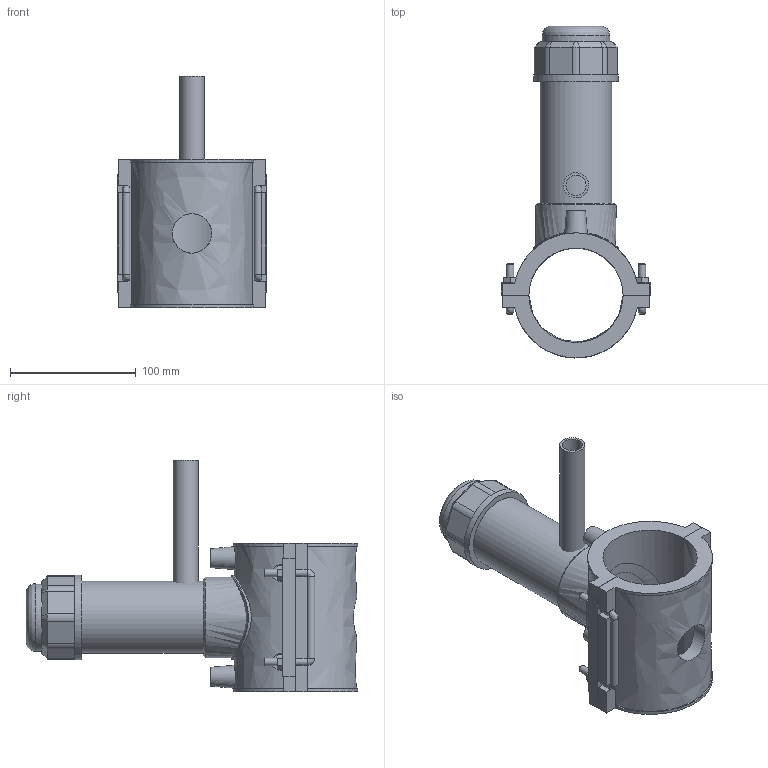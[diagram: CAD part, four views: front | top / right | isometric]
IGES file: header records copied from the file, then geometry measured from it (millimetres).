
Global section: file name: 4963P4075020; native system: Autodesk Inventor 2019; preprocessor: unknown; author: KIM; date: 20220317.112603; units: millimetre
Bounding box: 119 x 264.22 x 184 mm (x, y, z)
Volume: 705104.4 mm3; surface area: 171740 mm2
Topology: 3 solids, 3 shells, 186 faces, 485 edges, 312 vertices
Faces by surface type: bspline 186
